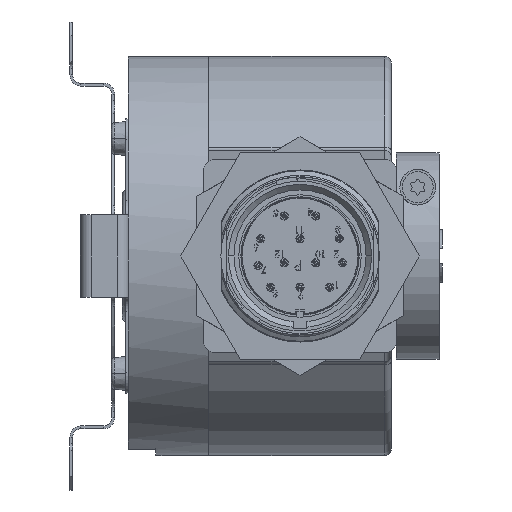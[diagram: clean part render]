
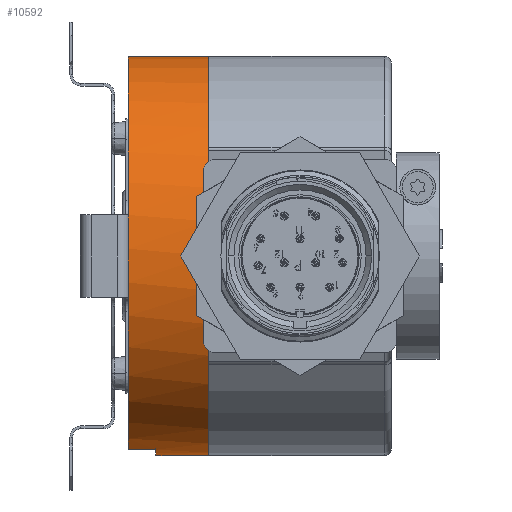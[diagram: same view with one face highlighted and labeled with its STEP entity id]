
A CAD part, front view. The second image highlights one B-rep face of the part: STEP entity #10592.
In plain terms, the highlighted cylindrical face has radius 29 mm (diameter 58 mm), a partial arc.
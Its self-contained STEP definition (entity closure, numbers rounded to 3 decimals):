
#1850 = EDGE_LOOP ( 'NONE', ( #40820, #10583, #27884, #69019, #43217, #10213 ) ) ;
#2355 = DIRECTION ( 'NONE',  ( 1., 0., 0. ) ) ;
#4939 = DIRECTION ( 'NONE',  ( -1., 0., 0. ) ) ;
#5425 = CARTESIAN_POINT ( 'NONE',  ( 8.068, 25.423, 0. ) ) ;
#5821 = AXIS2_PLACEMENT_3D ( 'NONE', #59732, #20084, #20785 ) ;
#6048 = CARTESIAN_POINT ( 'NONE',  ( -3.622, 18.423, -28.142 ) ) ;
#7575 = EDGE_CURVE ( 'NONE', #69243, #48324, #39130, .T. ) ;
#9373 = VECTOR ( 'NONE', #33730, 1000. ) ;
#10213 = ORIENTED_EDGE ( 'NONE', *, *, #37797, .F. ) ;
#10336 = DIRECTION ( 'NONE',  ( 1., 0., 0. ) ) ;
#10583 = ORIENTED_EDGE ( 'NONE', *, *, #40075, .T. ) ;
#10592 = ADVANCED_FACE ( 'NONE', ( #69995 ), #43283, .T. ) ;
#11719 = DIRECTION ( 'NONE',  ( 1., 0., 0. ) ) ;
#19772 = CARTESIAN_POINT ( 'NONE',  ( -3.622, 25.423, 29. ) ) ;
#20084 = DIRECTION ( 'NONE',  ( 1., 0., 0. ) ) ;
#20603 = DIRECTION ( 'NONE',  ( 0., 0., -1. ) ) ;
#20785 = DIRECTION ( 'NONE',  ( 0., 0., -1. ) ) ;
#24720 = CARTESIAN_POINT ( 'NONE',  ( 0.378, 25.423, -29. ) ) ;
#26623 = VECTOR ( 'NONE', #2355, 1000. ) ;
#27884 = ORIENTED_EDGE ( 'NONE', *, *, #59778, .F. ) ;
#28172 = VERTEX_POINT ( 'NONE', #19772 ) ;
#29699 = CIRCLE ( 'NONE', #69983, 29. ) ;
#29720 = CARTESIAN_POINT ( 'NONE',  ( 0.378, 25.423, 0. ) ) ;
#29757 = LINE ( 'NONE', #51707, #26623 ) ;
#33730 = DIRECTION ( 'NONE',  ( 1., 0., 0. ) ) ;
#37797 = EDGE_CURVE ( 'NONE', #66827, #48324, #29699, .T. ) ;
#39130 = LINE ( 'NONE', #43812, #9373 ) ;
#40075 = EDGE_CURVE ( 'NONE', #28172, #56888, #67961, .T. ) ;
#40820 = ORIENTED_EDGE ( 'NONE', *, *, #54064, .F. ) ;
#40842 = VERTEX_POINT ( 'NONE', #62397 ) ;
#42223 = CARTESIAN_POINT ( 'NONE',  ( 8.068, 25.423, 0. ) ) ;
#43217 = ORIENTED_EDGE ( 'NONE', *, *, #7575, .T. ) ;
#43283 = CYLINDRICAL_SURFACE ( 'NONE', #49947, 29. ) ;
#43812 = CARTESIAN_POINT ( 'NONE',  ( 8.068, 25.423, -29. ) ) ;
#44076 = EDGE_CURVE ( 'NONE', #40842, #69243, #48336, .T. ) ;
#46665 = CARTESIAN_POINT ( 'NONE',  ( 8.068, 25.423, -29. ) ) ;
#48324 = VERTEX_POINT ( 'NONE', #46665 ) ;
#48336 = CIRCLE ( 'NONE', #50626, 29. ) ;
#48891 = LINE ( 'NONE', #54291, #66253 ) ;
#49227 = CARTESIAN_POINT ( 'NONE',  ( 8.068, 25.423, 29. ) ) ;
#49947 = AXIS2_PLACEMENT_3D ( 'NONE', #42223, #64249, #20603 ) ;
#50626 = AXIS2_PLACEMENT_3D ( 'NONE', #29720, #11719, #67231 ) ;
#51707 = CARTESIAN_POINT ( 'NONE',  ( 8.068, 25.423, 29. ) ) ;
#54064 = EDGE_CURVE ( 'NONE', #28172, #66827, #29757, .T. ) ;
#54291 = CARTESIAN_POINT ( 'NONE',  ( 8.068, 18.423, -28.142 ) ) ;
#56888 = VERTEX_POINT ( 'NONE', #6048 ) ;
#59732 = CARTESIAN_POINT ( 'NONE',  ( -3.622, 25.423, 0. ) ) ;
#59778 = EDGE_CURVE ( 'NONE', #40842, #56888, #48891, .T. ) ;
#62397 = CARTESIAN_POINT ( 'NONE',  ( 0.378, 18.423, -28.142 ) ) ;
#64249 = DIRECTION ( 'NONE',  ( 1., 0., 0. ) ) ;
#66253 = VECTOR ( 'NONE', #4939, 1000. ) ;
#66827 = VERTEX_POINT ( 'NONE', #49227 ) ;
#67231 = DIRECTION ( 'NONE',  ( 0., 0., 1. ) ) ;
#67961 = CIRCLE ( 'NONE', #5821, 29. ) ;
#69019 = ORIENTED_EDGE ( 'NONE', *, *, #44076, .T. ) ;
#69116 = DIRECTION ( 'NONE',  ( 0., 0., -1. ) ) ;
#69243 = VERTEX_POINT ( 'NONE', #24720 ) ;
#69983 = AXIS2_PLACEMENT_3D ( 'NONE', #5425, #10336, #69116 ) ;
#69995 = FACE_OUTER_BOUND ( 'NONE', #1850, .T. ) ;
